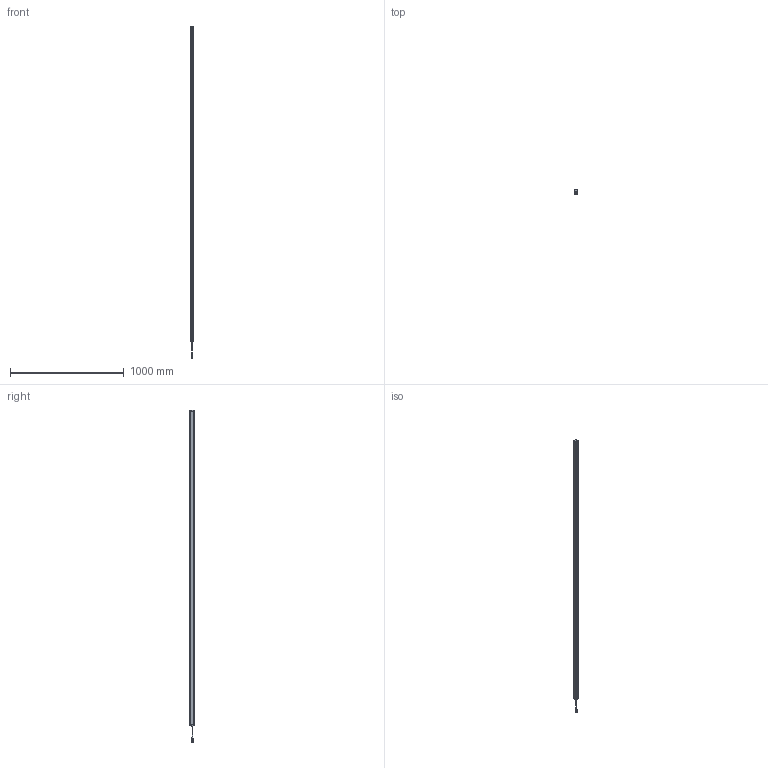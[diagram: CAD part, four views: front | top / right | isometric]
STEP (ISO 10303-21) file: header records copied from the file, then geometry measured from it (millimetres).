
FILE_DESCRIPTION((''),'2;1');
FILE_NAME('CT6-2752','2026-04-01T16:24:56',('Administrator'),(''),'CREO PARAMETRIC BY PTC INC, 2016510','CREO PARAMETRIC BY PTC INC, 2016510','');
FILE_SCHEMA(('AUTOMOTIVE_DESIGN { 1 0 10303 214 1 1 1 1 }'));
Length unit declared in the file: millimetre
Products named in the file (1): CT6-2752
Bounding box: 33 x 38 x 2921.9 mm (x, y, z)
Surface area: 592307.2 mm2 (no closed solid volume)
Topology: 0 solids, 12 shells, 616 faces, 1684 edges, 1103 vertices
Faces by surface type: plane 300, cylinder 224, torus 32, sphere 32, cone 28
Entity records: 24273 total; most frequent: CARTESIAN_POINT 4610, ORIENTED_EDGE 3314, DIRECTION 3050, EDGE_CURVE 1657, AXIS2_PLACEMENT_3D 1109, VERTEX_POINT 1103, VECTOR 832, LINE 832
